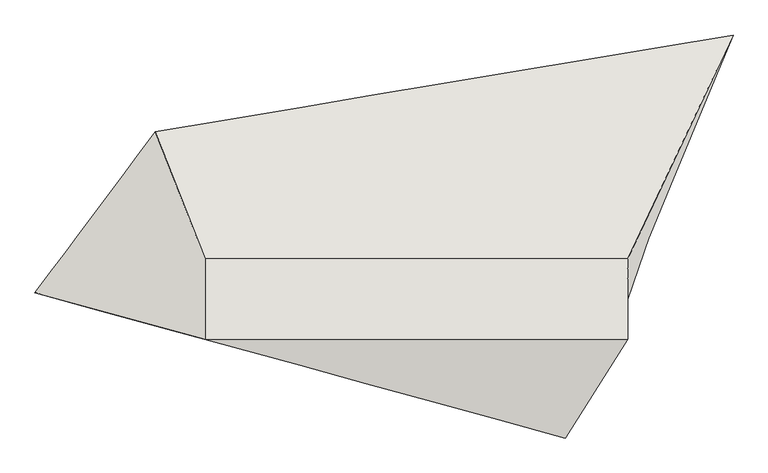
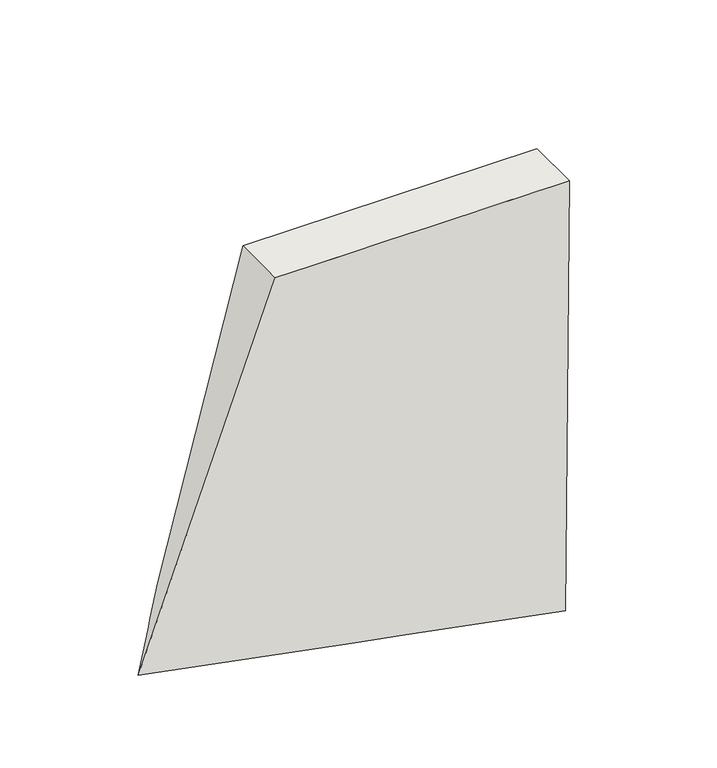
"""IFC4 building model written with IfcOpenShell, lengths in millimetres: wall geometry, Walls 1_inplace_component : Walls 1_inplace_component."""

from ifc_helpers import new_model, si_unit, frame, origin, place, context, project, spatial, source, transform, mapped, element, save
from ifc_brep_helpers import plane_surface, spline_surface, advanced_brep


def wall_7f0be361(model_context):
    return source(origin(), model_context, "Body", "AdvancedBrep", [
        advanced_brep(
        [(22437.1022157, 2194.62033, 7950.0), (28237.1022157, 2194.62033, 7950.0), (28237.1022157, 3294.62033, 7950.0), (22437.1022157, 3294.62033, 7950.0), (20102.4040684, 2830.6399737, 100.0), (21754.5572713, 5041.2005653, 100.0), (29683.0831433, 6368.986918, 100.0), (27379.0196474, 837.8003389, 100.0)],
        [
            (0, 1),
            (1, 2),
            (2, 3),
            (3, 0),
            (4, 5),
            (5, 6),
            (6, 7),
            (7, 4),
            (7, 1),
            (0, 4),
            (6, 2),
            (5, 3),
        ],
        [
            plane_surface(frame((25337.1022157, 2744.62033, 7950.0), z_axis=(0.0, 0.0, 1.0), x_axis=(-1.0, 0.0, 0.0))),
            plane_surface(frame((24729.7660326, 3769.656949, 100.0), z_axis=(0.0, 0.0, -1.0), x_axis=(-1.0, 0.0, 0.0))),
            spline_surface(1, 1, [[(20102.4040684, 2830.6399737, 100.0), (22437.1022157, 2194.62033, 7950.0)], [(27379.0196474, 837.8003389, 100.0), (28237.1022157, 2194.62033, 7950.0)]], [2, 2], [2, 2], [0.0, 1.0], [0.0, 1.0]),
            spline_surface(1, 1, [[(27379.0196474, 837.8003389, 100.0), (28237.1022157, 2194.62033, 7950.0)], [(29683.0831433, 6368.986918, 100.0), (28237.1022157, 3294.62033, 7950.0)]], [2, 2], [2, 2], [0.0, 1.0], [0.0, 1.0]),
            spline_surface(1, 1, [[(29683.0831433, 6368.986918, 100.0), (28237.1022157, 3294.62033, 7950.0)], [(21754.5572713, 5041.2005653, 100.0), (22437.1022157, 3294.62033, 7950.0)]], [2, 2], [2, 2], [0.0, 1.0], [0.0, 1.0]),
            spline_surface(1, 1, [[(21754.5572713, 5041.2005653, 100.0), (22437.1022157, 3294.62033, 7950.0)], [(20102.4040684, 2830.6399737, 100.0), (22437.1022157, 2194.62033, 7950.0)]], [2, 2], [2, 2], [0.0, 1.0], [0.0, 1.0]),
        ],
        [
            (0, [[1, 2, 3, 4]]),
            (1, [[5, 6, 7, 8]]),
            (2, [[-8, 9, -1, 10]]),
            (3, [[-7, 11, -2, -9]]),
            (4, [[-6, 12, -3, -11]]),
            (5, [[-5, -10, -4, -12]]),
        ],
    ),
    ])


if __name__ == "__main__":
    model = new_model("IFC4")
    model_context = context("Model", 3, world=origin())
    ifc_project = project(units=[si_unit("LENGTHUNIT", "METRE", prefix="MILLI")], contexts=[model_context])
    site = spatial("IfcSite", under=ifc_project)
    building = spatial("IfcBuilding", under=site)
    placement = place(None, origin())
    wall_shape = wall_7f0be361(model_context)
    element("IfcWall", 1, ObjectType="Walls 1_inplace_component : Walls 1_inplace_component", at=placement, inside=building, context=model_context, shape_type="MappedRepresentation", body=[
        mapped(wall_shape, transform((0.0, 0.0, 0.0), x_axis=(1.0, 0.0, 0.0), y_axis=(0.0, 1.0, 0.0), z_axis=(0.0, 0.0, 1.0))),
    ])
    save(model, "model.ifc")
